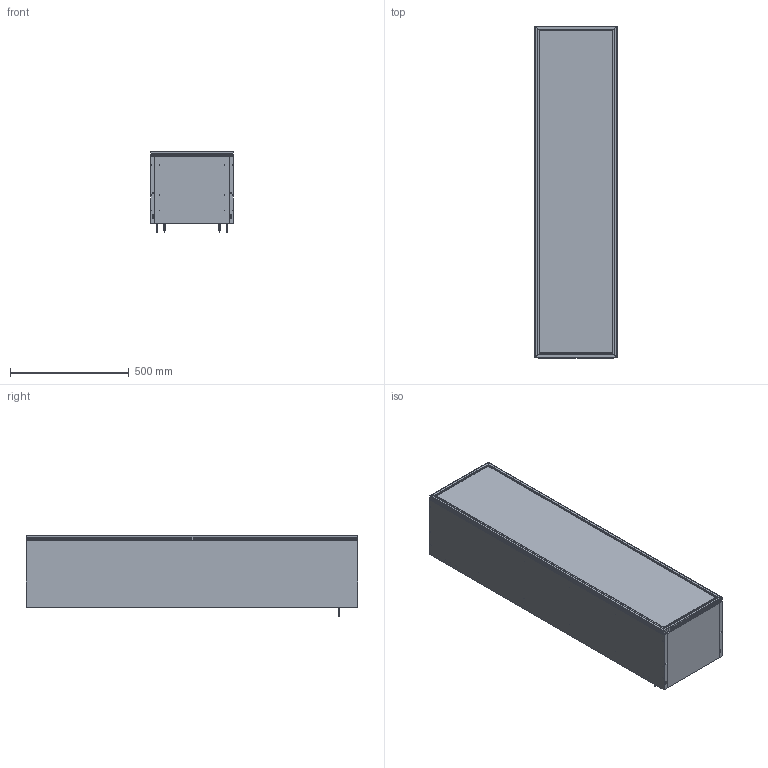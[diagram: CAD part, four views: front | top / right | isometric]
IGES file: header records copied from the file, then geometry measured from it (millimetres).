
Global section: file name: 3D Dosyası,; native system: Autodesk Inventor 2024; preprocessor: unknown; author: pc11; date: 20250709.163302; units: millimetre
Bounding box: 350 x 1400 x 340.9 mm (x, y, z)
Volume: 28734058.7 mm3; surface area: 5334367 mm2
Topology: 32 solids, 36 shells, 1083 faces, 2997 edges, 2030 vertices
Faces by surface type: bspline 1083
